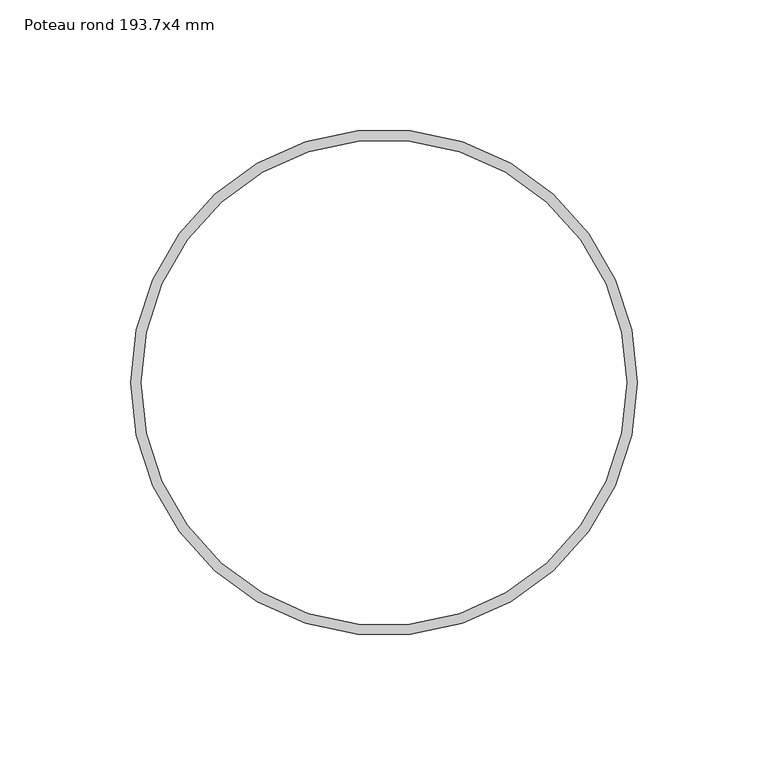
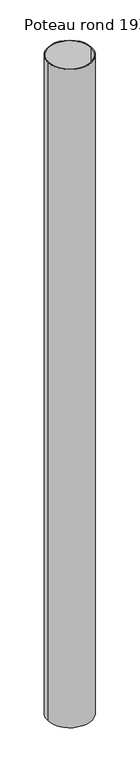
"""IFC4 building model written with IfcOpenShell, lengths in millimetres: column geometry, Poteau RO (EN 10219-2) : Poteau rond 193.7x4 mm."""

from ifc_helpers import new_model, si_unit, point, frame, origin, origin_2d, place, context, project, spatial, circle_curve, trimmed, segment, composite_curve, outline, extrude, source, transform, mapped, element, save


def poteau_rond_193_7x4_mm_703e1262(model_context):
    return source(origin(), model_context, "Body", "SweptSolid", [
        extrude(outline(composite_curve([segment(trimmed(circle_curve(origin_2d(), 96.85), [point((-96.85, 0.0))], [point((96.85, 0.0))], False, "CARTESIAN"), True, "CONTINUOUS"), segment(trimmed(circle_curve(origin_2d(), 96.85), [point((96.85, 0.0))], [point((-96.85, 0.0))], False, "CARTESIAN"), True, "CONTINUOUS")], self_intersect=False), holes=[composite_curve([segment(trimmed(circle_curve(origin_2d(), 92.85), [point((-92.85, 0.0))], [point((92.85, 0.0))], True, "CARTESIAN"), True, "CONTINUOUS"), segment(trimmed(circle_curve(origin_2d(), 92.85), [point((92.85, 0.0))], [point((-92.85, 0.0))], True, "CARTESIAN"), True, "CONTINUOUS")], self_intersect=False)]), frame((0.0, 0.0, 869500.0), z_axis=(0.0, 0.0, 1.0), x_axis=(1.0, 0.0, 0.0)), (0.0, 0.0, 1.0), 3048.0378214),
    ])


if __name__ == "__main__":
    model = new_model("IFC4")
    model_context = context("Model", 3, world=origin())
    ifc_project = project(units=[si_unit("LENGTHUNIT", "METRE", prefix="MILLI")], contexts=[model_context])
    site = spatial("IfcSite", under=ifc_project)
    building = spatial("IfcBuilding", under=site)
    placement = place(None, origin())
    poteau_rond_193_7x4_mm_shape = poteau_rond_193_7x4_mm_703e1262(model_context)
    element("IfcColumn", 1, ObjectType="Poteau RO (EN 10219-2) : Poteau rond 193.7x4 mm", at=placement, inside=building, context=model_context, shape_type="MappedRepresentation", body=[
        mapped(poteau_rond_193_7x4_mm_shape, transform((0.0, 0.0, 0.0), x_axis=(1.0, 0.0, 0.0), y_axis=(0.0, 1.0, 0.0), z_axis=(0.0, 0.0, 1.0))),
    ])
    save(model, "model.ifc")
